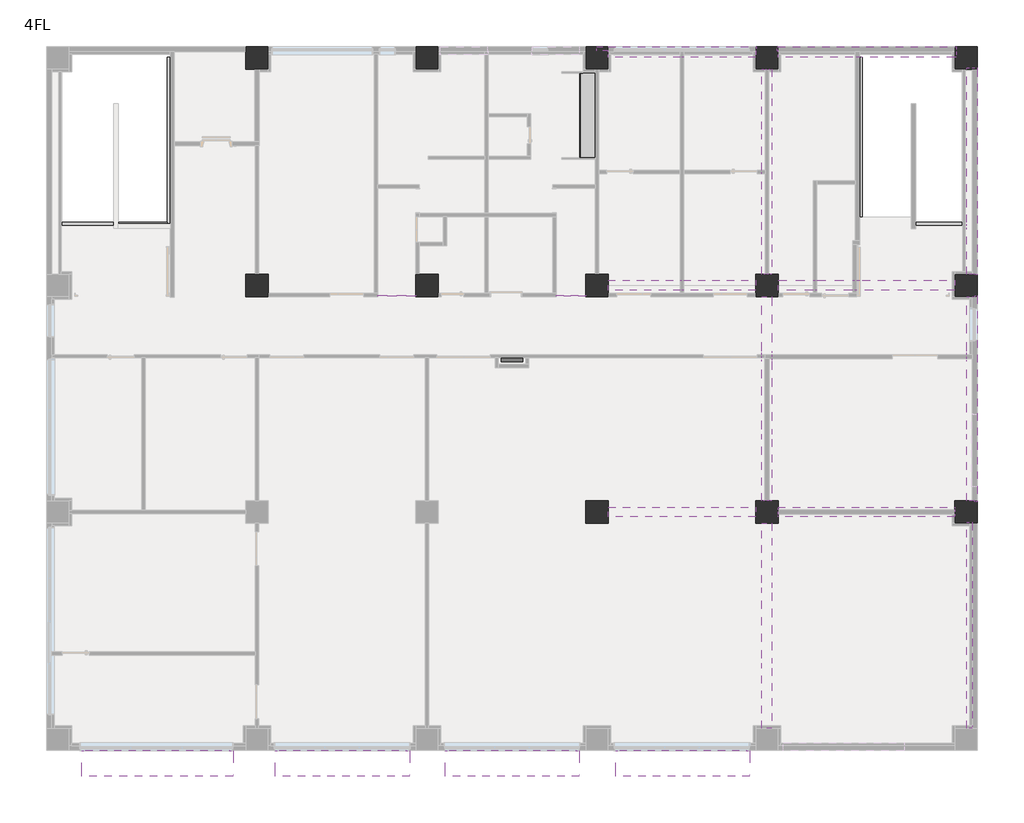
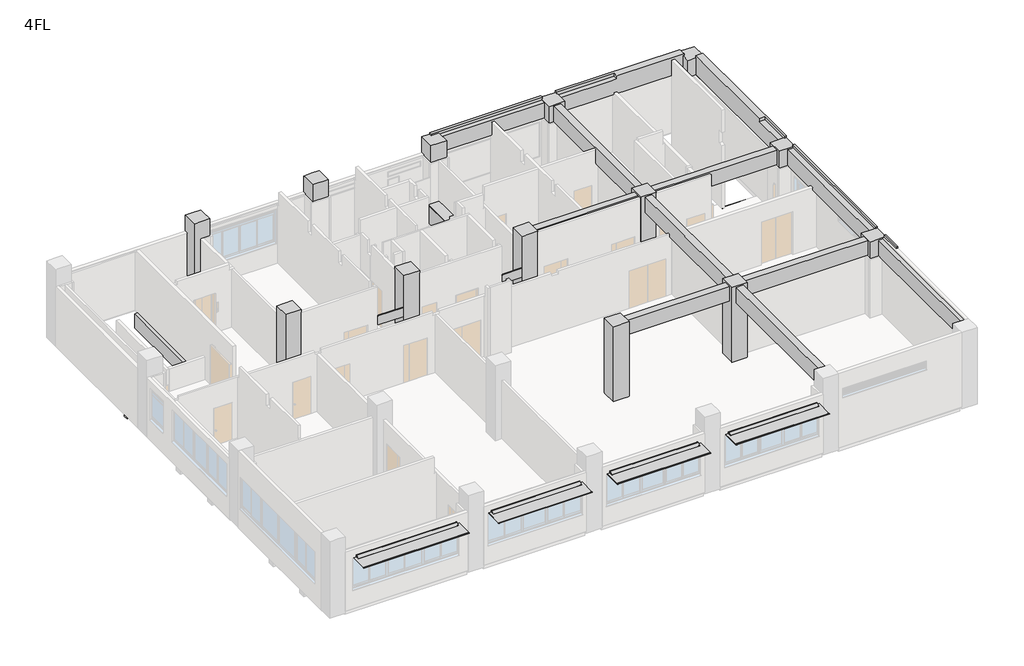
# One storey, part 5 of 5: 32 beams, 13 columns, 7 proxies, 1 flow terminal.
"""IFC4 building model written with IfcOpenShell, lengths in millimetres."""

from ifc_helpers import new_model, si_unit, frame, origin, place, context, project, spatial, polyline, outline, extrude, faceted_brep, transform, mapped, element, save
from components import generic_models_889831fe, generic_models_706210b3, specialty_equipment_ac76b24c, generic_models_62cbec98, generic_models_7d721c24, flow_terminal_46fab2b1

model = new_model("IFC4")

# Units and contexts
model_context = context("Model", 3, world=origin())
ifc_project = project(units=[si_unit("LENGTHUNIT", "METRE", prefix="MILLI")], contexts=[model_context])

# Site, building, storey
site = spatial("IfcSite", under=ifc_project)
building = spatial("IfcBuilding", under=site)
storey = spatial("IfcBuildingStorey", under=building, Name="4FL", Elevation=12300.0)

# Beams
placement = place(None, origin())
element("IfcBeam", 1, ObjectType="営_RC梁 : 2-RG2 350*850", at=placement, inside=storey, context=model_context, shape_type="SweptSolid", body=[
    extrude(outline(polyline([(19395.0, 7825.0), (19395.0, 8175.0), (24605.0, 8175.0), (24605.0, 7825.0), (19395.0, 7825.0)])), frame((0.0, 0.0, 15450.0), z_axis=(0.0, 0.0, 1.0), x_axis=(1.0, 0.0, 0.0)), (0.0, 0.0, 1.0), 790.0),
])
element("IfcBeam", 2, ObjectType="営_RC梁 : 2-RG2 350*850", at=placement, inside=storey, context=model_context, shape_type="Brep", body=[
    faceted_brep([(25395.0, 7825.0, 15450.0), (31630.0, 7825.0, 15450.0), (31630.0, 7825.0, 16240.0), (25395.0, 7825.0, 16240.0), (25395.0, 7925.0, 15450.0), (25395.0, 8075.0, 15450.0), (25395.0, 8175.0, 15450.0), (31630.0, 8175.0, 15450.0), (31630.0, 8075.0, 15450.0), (31630.0, 7925.0, 15450.0), (25395.0, 8175.0, 16240.0), (31630.0, 8175.0, 16240.0)], [[[0, 1, 2, 3]], [[0, 4, 5, 6, 7, 8, 9, 1]], [[7, 6, 10, 11]], [[6, 5, 4, 0, 3, 10]], [[1, 9, 8, 7, 11, 2]], [[3, 2, 11, 10]]]),
])
element("IfcBeam", 3, ObjectType="営_RC梁 : 2-RG2 350*850", at=placement, inside=storey, context=model_context, shape_type="Brep", body=[
    faceted_brep([(19395.0, 15825.0, 15450.0), (21940.0, 15825.0, 15450.0), (22060.0, 15825.0, 15450.0), (24605.0, 15825.0, 15450.0), (24605.0, 15825.0, 16240.0), (19395.0, 15825.0, 16240.0), (19395.0, 16175.0, 15450.0), (21940.0, 16175.0, 15450.0), (22060.0, 16175.0, 15450.0), (24605.0, 16175.0, 15450.0), (19395.0, 16175.0, 16240.0), (24605.0, 16175.0, 16240.0)], [[[0, 1, 2, 3, 4, 5]], [[0, 6, 7, 8, 9, 3, 2, 1]], [[9, 8, 7, 6, 10, 11]], [[6, 0, 5, 10]], [[3, 9, 11, 4]], [[5, 4, 11, 10]]]),
])
element("IfcBeam", 4, ObjectType="営_RC梁 : 2-RG2 350*850", at=placement, inside=storey, context=model_context, shape_type="Brep", body=[
    faceted_brep([(25395.0, 15825.0, 15450.0), (26640.0, 15825.0, 15450.0), (26760.0, 15825.0, 15450.0), (28025.0, 15825.0, 15450.0), (28175.0, 15825.0, 15450.0), (31630.0, 15825.0, 15450.0), (31630.0, 15825.0, 16240.0), (25395.0, 15825.0, 16240.0), (25395.0, 16175.0, 15450.0), (26640.0, 16175.0, 15450.0), (26760.0, 16175.0, 15450.0), (28025.0, 16175.0, 15450.0), (28175.0, 16175.0, 15450.0), (31630.0, 16175.0, 15450.0), (25395.0, 16175.0, 16240.0), (28024.0, 16175.0, 16240.0), (28374.0, 16175.0, 16240.0), (31630.0, 16175.0, 16240.0)], [[[0, 1, 2, 3, 4, 5, 6, 7]], [[0, 8, 9, 10, 11, 12, 13, 5, 4, 3, 2, 1]], [[13, 12, 11, 10, 9, 8, 14, 15, 16, 17]], [[8, 0, 7, 14]], [[5, 13, 17, 6]], [[7, 6, 17, 16, 15, 14]]]),
])
element("IfcBeam", 5, ObjectType="営_RC梁 : 2-RG1 350*850", at=placement, inside=storey, context=model_context, shape_type="Brep", body=[
    faceted_brep([(24630.0, 24420.0, 16300.0), (24630.0, 24420.0, 16390.0), (24630.0, 24290.0, 16390.0), (24630.0, 24290.0, 16300.0), (19395.0, 24050.0, 15450.0), (21940.0, 24050.0, 15450.0), (22060.0, 24050.0, 15450.0), (24605.0, 24050.0, 15450.0), (24605.0, 24050.0, 16240.0), (19395.0, 24050.0, 16240.0), (19395.0, 24250.0, 15450.0), (19395.0, 24420.0, 15450.0), (24605.0, 24420.0, 15450.0), (24605.0, 24250.0, 15450.0), (19000.0, 24420.0, 16390.0), (24605.0, 24420.0, 16300.0), (19395.0, 24420.0, 16300.0), (19000.0, 24420.0, 16300.0), (19000.0, 24290.0, 16390.0), (19395.0, 24290.0, 16240.0), (19395.0, 24290.0, 16300.0), (19000.0, 24290.0, 16300.0), (24605.0, 24290.0, 16300.0), (24605.0, 24290.0, 16240.0)], [[[0, 1, 2, 3]], [[4, 5, 6, 7, 8, 9]], [[4, 10, 11, 12, 13, 7, 6, 5]], [[14, 1, 0, 15, 12, 11, 16, 17]], [[1, 14, 18, 2]], [[11, 10, 4, 9, 19, 20, 16]], [[14, 17, 21, 18]], [[17, 16, 20, 21]], [[7, 13, 12, 15, 22, 23, 8]], [[15, 0, 3, 22]], [[23, 19, 9, 8]], [[19, 23, 22, 3, 2, 18, 21, 20]]]),
])
element("IfcBeam", 6, ObjectType="営_RC梁 : 2-RG1 350*850", at=placement, inside=storey, context=model_context, shape_type="Brep", body=[
    faceted_brep([(31680.0, 24420.0, 16390.0), (31680.0, 24250.0, 16390.0), (31680.0, 24050.0, 16390.0), (31680.0, 24050.0, 16300.0), (31680.0, 24420.0, 16300.0), (25370.0, 24420.0, 16390.0), (25370.0, 24420.0, 16300.0), (25370.0, 24290.0, 16300.0), (25370.0, 24290.0, 16390.0), (25395.0, 24050.0, 15450.0), (31630.0, 24050.0, 15450.0), (31630.0, 24050.0, 16300.0), (28374.0, 24050.0, 16390.0), (28275.0, 24050.0, 16390.0), (28275.0, 24050.0, 16240.0), (28024.0, 24050.0, 16240.0), (25395.0, 24050.0, 16240.0), (25395.0, 24250.0, 15450.0), (25395.0, 24420.0, 15450.0), (31630.0, 24420.0, 15450.0), (31630.0, 24250.0, 15450.0), (31630.0, 24420.0, 16300.0), (25395.0, 24420.0, 16300.0), (28275.0, 24290.0, 16390.0), (25395.0, 24290.0, 16240.0), (25395.0, 24290.0, 16300.0), (28275.0, 24290.0, 16240.0)], [[[0, 1, 2, 3, 4]], [[5, 6, 7, 8]], [[9, 10, 11, 3, 2, 12, 13, 14, 15, 16]], [[9, 17, 18, 19, 20, 10]], [[5, 0, 4, 21, 19, 18, 22, 6]], [[2, 1, 0, 5, 8, 23, 13, 12]], [[18, 17, 9, 16, 24, 25, 22]], [[6, 22, 25, 7]], [[21, 11, 10, 20, 19]], [[11, 21, 4, 3]], [[26, 24, 16, 15, 14]], [[26, 23, 8, 7, 25, 24]], [[23, 26, 14, 13]]]),
])
element("IfcBeam", 7, ObjectType="営_RC梁 : RG12 350*900", at=placement, inside=storey, context=model_context, shape_type="Brep", body=[
    faceted_brep([(25175.0, 370.0, 15400.0), (25175.0, 7605.0, 15400.0), (25175.0, 7605.0, 16240.0), (25175.0, 5505.0, 16240.0), (25175.0, 5155.0, 16240.0), (25175.0, 2835.0, 16240.0), (25175.0, 2485.0, 16240.0), (25175.0, 370.0, 16240.0), (24825.0, 370.0, 15400.0), (24825.0, 7605.0, 15400.0), (24825.0, 370.0, 16240.0), (24825.0, 2485.0, 16240.0), (24825.0, 2835.0, 16240.0), (24825.0, 5155.0, 16240.0), (24825.0, 5505.0, 16240.0), (24825.0, 7605.0, 16240.0)], [[[0, 1, 2, 3, 4, 5, 6, 7]], [[0, 8, 9, 1]], [[9, 8, 10, 11, 12, 13, 14, 15]], [[8, 0, 7, 10]], [[1, 9, 15, 2]], [[7, 6, 5, 4, 3, 2, 15, 14, 13, 12, 11, 10]]]),
])
element("IfcBeam", 8, ObjectType="営_RC梁 : RG12 350*900", at=placement, inside=storey, context=model_context, shape_type="Brep", body=[
    faceted_brep([(25175.0, 8395.0, 15400.0), (25175.0, 13405.0, 15400.0), (25175.0, 13555.0, 15400.0), (25175.0, 15605.0, 15400.0), (25175.0, 15605.0, 16240.0), (25175.0, 13675.0, 16240.0), (25175.0, 13325.0, 16240.0), (25175.0, 10925.0, 16240.0), (25175.0, 10575.0, 16240.0), (25175.0, 8395.0, 16240.0), (25075.0, 8395.0, 15400.0), (24925.0, 8395.0, 15400.0), (24825.0, 8395.0, 15400.0), (24825.0, 13440.0, 15400.0), (24825.0, 13560.0, 15400.0), (24825.0, 15605.0, 15400.0), (24825.0, 8395.0, 16240.0), (24825.0, 10575.0, 16240.0), (24825.0, 10925.0, 16240.0), (24825.0, 13325.0, 16240.0), (24825.0, 13675.0, 16240.0), (24825.0, 15605.0, 16240.0)], [[[0, 1, 2, 3, 4, 5, 6, 7, 8, 9]], [[0, 10, 11, 12, 13, 14, 15, 3, 2, 1]], [[15, 14, 13, 12, 16, 17, 18, 19, 20, 21]], [[12, 11, 10, 0, 9, 16]], [[3, 15, 21, 4]], [[9, 8, 7, 6, 5, 4, 21, 20, 19, 18, 17, 16]]]),
])
element("IfcBeam", 9, ObjectType="営_RC梁 : RG12 350*900", at=placement, inside=storey, context=model_context, shape_type="Brep", body=[
    faceted_brep([(25175.0, 16395.0, 15400.0), (25175.0, 23630.0, 15400.0), (25175.0, 23630.0, 16240.0), (25175.0, 16395.0, 16240.0), (25060.0, 16395.0, 15400.0), (24940.0, 16395.0, 15400.0), (24825.0, 16395.0, 15400.0), (24825.0, 19940.0, 15400.0), (24825.0, 20060.0, 15400.0), (24825.0, 23630.0, 15400.0), (24940.0, 23630.0, 15400.0), (25060.0, 23630.0, 15400.0), (24825.0, 16395.0, 16240.0), (24825.0, 18495.0, 16240.0), (24825.0, 18845.0, 16240.0), (24825.0, 21165.0, 16240.0), (24825.0, 21515.0, 16240.0), (24825.0, 23630.0, 16240.0)], [[[0, 1, 2, 3]], [[0, 4, 5, 6, 7, 8, 9, 10, 11, 1]], [[9, 8, 7, 6, 12, 13, 14, 15, 16, 17]], [[6, 5, 4, 0, 3, 12]], [[1, 11, 10, 9, 17, 2]], [[3, 2, 17, 16, 15, 14, 13, 12]]]),
])
element("IfcBeam", 10, ObjectType="営_RC梁 : 2-RG11 350*900", at=placement, inside=storey, context=model_context, shape_type="Brep", body=[
    faceted_brep([(32335.0, 7630.0, 16390.0), (32420.0, 7630.0, 16390.0), (32420.0, 7630.0, 16300.0), (32335.0, 7630.0, 16300.0), (32420.0, 6580.0, 16390.0), (32420.0, 6580.0, 16300.0), (32420.0, 7605.0, 16300.0), (32335.0, 6580.0, 16390.0), (32335.0, 6580.0, 16300.0)], [[[0, 1, 2, 3]], [[2, 1, 4, 5, 6]], [[1, 0, 7, 4]], [[3, 2, 6, 5, 8]], [[0, 3, 8, 7]], [[5, 4, 7, 8]]]),
    faceted_brep([(32050.0, 370.0, 15400.0), (32050.0, 7630.0, 15400.0), (32250.0, 7630.0, 15400.0), (32250.0, 7605.0, 15400.0), (32250.0, 460.0, 15400.0), (32250.0, 370.0, 15400.0), (32050.0, 370.0, 16240.0), (32050.0, 7630.0, 16240.0), (32250.0, 370.0, 16240.0), (32250.0, 7605.0, 16240.0), (32250.0, 7630.0, 16240.0)], [[[0, 1, 2, 3, 4, 5]], [[1, 0, 6, 7]], [[6, 0, 5, 8]], [[7, 6, 8, 9, 10]], [[2, 10, 9, 8, 5, 4, 3]], [[1, 7, 10, 2]]]),
])
element("IfcBeam", 11, ObjectType="営_RC梁 : 2-RG11 350*900", at=placement, inside=storey, context=model_context, shape_type="Brep", body=[
    faceted_brep([(32420.0, 15630.0, 16390.0), (32420.0, 15630.0, 16300.0), (32335.0, 15630.0, 16300.0), (32335.0, 15630.0, 16390.0), (32420.0, 8370.0, 16300.0), (32420.0, 8370.0, 16390.0), (32335.0, 8370.0, 16390.0), (32335.0, 8370.0, 16300.0), (32420.0, 8395.0, 16300.0), (32420.0, 8395.0, 15400.0), (32420.0, 15605.0, 15400.0), (32420.0, 15605.0, 16300.0), (32050.0, 15605.0, 15400.0), (32250.0, 15605.0, 15400.0), (32250.0, 8395.0, 15400.0), (32050.0, 8395.0, 15400.0), (32050.0, 13405.0, 15400.0), (32050.0, 13555.0, 15400.0), (32050.0, 8395.0, 16240.0), (32050.0, 10575.0, 16240.0), (32050.0, 10925.0, 16240.0), (32050.0, 13325.0, 16240.0), (32050.0, 13675.0, 16240.0), (32050.0, 15605.0, 16240.0), (32250.0, 15605.0, 16240.0), (32335.0, 15605.0, 16240.0), (32335.0, 15605.0, 16300.0), (32335.0, 8395.0, 16300.0), (32335.0, 8395.0, 16240.0), (32250.0, 8395.0, 16240.0)], [[[0, 1, 2, 3]], [[4, 5, 6, 7]], [[0, 5, 4, 8, 9, 10, 11, 1]], [[12, 13, 10, 9, 14, 15, 16, 17]], [[12, 17, 16, 15, 18, 19, 20, 21, 22, 23]], [[5, 0, 3, 6]], [[10, 13, 12, 23, 24, 25, 26, 11]], [[1, 11, 26, 2]], [[15, 14, 9, 8, 27, 28, 29, 18]], [[8, 4, 7, 27]], [[28, 25, 24, 23, 22, 21, 20, 19, 18, 29]], [[25, 28, 27, 7, 6, 3, 2, 26]]]),
])
element("IfcBeam", 12, ObjectType="営_RC梁 : 2-RG11 350*900", at=placement, inside=storey, context=model_context, shape_type="Brep", body=[
    faceted_brep([(32050.0, 23680.0, 16390.0), (32250.0, 23680.0, 16390.0), (32420.0, 23680.0, 16390.0), (32420.0, 23680.0, 16300.0), (32050.0, 23680.0, 16300.0), (32420.0, 16370.0, 16300.0), (32420.0, 16370.0, 16390.0), (32335.0, 16370.0, 16390.0), (32335.0, 16370.0, 16300.0), (32420.0, 16395.0, 16300.0), (32420.0, 16395.0, 15400.0), (32420.0, 23630.0, 15400.0), (32420.0, 23630.0, 16300.0), (32050.0, 23630.0, 15400.0), (32250.0, 23630.0, 15400.0), (32250.0, 16395.0, 15400.0), (32050.0, 16395.0, 15400.0), (32050.0, 23630.0, 16300.0), (32050.0, 16395.0, 16240.0), (32050.0, 17975.0, 16240.0), (32050.0, 18100.0, 16240.0), (32050.0, 18100.0, 16390.0), (32050.0, 18225.0, 16390.0), (32335.0, 18100.0, 16390.0), (32335.0, 16395.0, 16300.0), (32335.0, 16395.0, 16240.0), (32250.0, 16395.0, 16240.0), (32335.0, 18100.0, 16240.0), (32250.0, 18100.0, 16240.0), (32335.0, 18100.0, 16300.0)], [[[0, 1, 2, 3, 4]], [[5, 6, 7, 8]], [[2, 6, 5, 9, 10, 11, 12, 3]], [[13, 14, 11, 10, 15, 16]], [[17, 13, 16, 18, 19, 20, 21, 22, 0, 4]], [[2, 1, 0, 22, 21, 23, 7, 6]], [[17, 12, 11, 14, 13]], [[12, 17, 4, 3]], [[16, 15, 10, 9, 24, 25, 26, 18]], [[9, 5, 8, 24]], [[25, 27, 28, 20, 19, 18, 26]], [[23, 29, 27, 25, 24, 8, 7]], [[27, 29, 23, 21, 20, 28]]]),
])
element("IfcBeam", 13, ObjectType="営_RC梁 : B2 350*750", at=placement, inside=storey, context=model_context, shape_type="SweptSolid", body=[
    extrude(outline(polyline([(25225.0, 2485.0), (25225.0, 2835.0), (32050.0, 2835.0), (32050.0, 2485.0), (25225.0, 2485.0)])), frame((0.0, 0.0, 11450.0), z_axis=(0.0, 0.0, 1.0), x_axis=(1.0, 0.0, 0.0)), (0.0, 0.0, 1.0), 600.0),
])
element("IfcBeam", 14, ObjectType="営_RC梁 : B2 350*750", at=placement, inside=storey, context=model_context, shape_type="SweptSolid", body=[
    extrude(outline(polyline([(25225.0, 5155.0), (25225.0, 5505.0), (32050.0, 5505.0), (32050.0, 5155.0), (25225.0, 5155.0)])), frame((0.0, 0.0, 11450.0), z_axis=(0.0, 0.0, 1.0), x_axis=(1.0, 0.0, 0.0)), (0.0, 0.0, 1.0), 600.0),
])
element("IfcBeam", 15, ObjectType="営_RC梁 : B2 350*750", at=placement, inside=storey, context=model_context, shape_type="SweptSolid", body=[
    extrude(outline(polyline([(25225.0, 10575.0), (25225.0, 10925.0), (32050.0, 10925.0), (32050.0, 10575.0), (25225.0, 10575.0)])), frame((0.0, 0.0, 11450.0), z_axis=(0.0, 0.0, 1.0), x_axis=(1.0, 0.0, 0.0)), (0.0, 0.0, 1.0), 690.0),
])
element("IfcBeam", 16, ObjectType="営_RC梁 : B2 350*750", at=placement, inside=storey, context=model_context, shape_type="Brep", body=[
    faceted_brep([(25225.0, 13325.0, 11450.0), (32050.0, 13325.0, 11450.0), (32050.0, 13325.0, 12140.0), (25225.0, 13325.0, 12140.0), (25225.0, 13405.0, 11450.0), (25225.0, 13555.0, 11450.0), (25225.0, 13675.0, 11450.0), (32050.0, 13675.0, 11450.0), (32050.0, 13555.0, 11450.0), (32050.0, 13405.0, 11450.0), (25225.0, 13675.0, 12140.0), (32050.0, 13675.0, 12140.0)], [[[0, 1, 2, 3]], [[0, 4, 5, 6, 7, 8, 9, 1]], [[7, 6, 10, 11]], [[6, 5, 4, 0, 3, 10]], [[1, 9, 8, 7, 11, 2]], [[3, 2, 11, 10]]]),
])
element("IfcBeam", 17, ObjectType="営_RC梁 : B4 350*750", at=placement, inside=storey, context=model_context, shape_type="Brep", body=[
    faceted_brep([(28374.0, 16175.0, 11450.0), (28374.0, 24050.0, 11450.0), (28374.0, 24050.0, 12200.0), (28374.0, 18400.0, 12200.0), (28374.0, 18400.0, 12140.0), (28374.0, 18225.0, 12140.0), (28374.0, 17975.0, 12140.0), (28374.0, 16175.0, 12140.0), (28175.0, 16175.0, 11450.0), (28025.0, 16175.0, 11450.0), (28024.0, 16175.0, 11450.0), (28024.0, 19575.0, 11450.0), (28024.0, 19695.0, 11450.0), (28024.0, 24050.0, 11450.0), (28024.0, 16175.0, 12050.0), (28024.0, 19575.0, 12050.0), (28024.0, 19695.0, 12050.0), (28024.0, 24050.0, 12050.0), (28200.0, 24050.0, 12200.0), (28200.0, 18400.0, 12200.0), (28200.0, 16175.0, 12140.0), (28200.0, 16175.0, 12050.0), (28200.0, 24050.0, 12050.0), (28200.0, 18400.0, 12140.0)], [[[0, 1, 2, 3, 4, 5, 6, 7]], [[0, 8, 9, 10, 11, 12, 13, 1]], [[13, 12, 11, 10, 14, 15, 16, 17]], [[2, 18, 19, 3]], [[10, 9, 8, 0, 7, 20, 21, 14]], [[2, 1, 13, 17, 22, 18]], [[21, 22, 17, 16, 15, 14]], [[22, 21, 20, 23, 19, 18]], [[4, 23, 20, 7, 6, 5]], [[23, 4, 3, 19]]]),
])
element("IfcBeam", 18, ObjectType="営_RC梁 : B3 250*600", at=placement, inside=storey, context=model_context, shape_type="Brep", body=[
    faceted_brep([(28374.0, 17975.0, 11600.0), (32050.0, 17975.0, 11600.0), (32050.0, 17975.0, 12140.0), (28374.0, 17975.0, 12140.0), (28374.0, 18225.0, 11600.0), (30105.0, 18225.0, 11600.0), (30255.0, 18225.0, 11600.0), (32050.0, 18225.0, 11600.0), (28374.0, 18225.0, 12140.0), (30105.0, 18225.0, 12140.0), (30105.0, 18225.0, 12200.0), (30255.0, 18225.0, 12200.0), (31900.0, 18225.0, 12200.0), (31900.0, 18225.0, 12140.0), (32050.0, 18225.0, 12140.0), (30105.0, 18005.0, 12200.0), (30255.0, 18005.0, 12200.0), (30255.0, 18100.0, 12200.0), (31900.0, 18100.0, 12200.0), (30255.0, 18005.0, 12140.0), (30105.0, 18005.0, 12140.0), (31900.0, 18100.0, 12140.0), (30255.0, 18100.0, 12140.0)], [[[0, 1, 2, 3]], [[0, 4, 5, 6, 7, 1]], [[7, 6, 5, 4, 8, 9, 10, 11, 12, 13, 14]], [[12, 11, 10, 15, 16, 17, 18]], [[4, 0, 3, 8]], [[1, 7, 14, 2]], [[19, 20, 9, 8, 3, 2, 14, 13, 21, 22]], [[9, 20, 15, 10]], [[20, 19, 16, 15]], [[19, 22, 17, 16]], [[22, 21, 18, 17]], [[21, 13, 12, 18]]]),
])
element("IfcBeam", 19, ObjectType="営_RC梁 : B2 350*750", at=placement, inside=storey, context=model_context, shape_type="SweptSolid", body=[
    extrude(outline(polyline([(19225.0, 5155.0), (19225.0, 5505.0), (24775.0, 5505.0), (24775.0, 5155.0), (19225.0, 5155.0)])), frame((0.0, 0.0, 11450.0), z_axis=(0.0, 0.0, 1.0), x_axis=(1.0, 0.0, 0.0)), (0.0, 0.0, 1.0), 600.0),
])
element("IfcBeam", 20, ObjectType="営_RC梁 : B2 350*750", at=placement, inside=storey, context=model_context, shape_type="SweptSolid", body=[
    extrude(outline(polyline([(19225.0, 10575.0), (19225.0, 10925.0), (24775.0, 10925.0), (24775.0, 10575.0), (19225.0, 10575.0)])), frame((0.0, 0.0, 11450.0), z_axis=(0.0, 0.0, 1.0), x_axis=(1.0, 0.0, 0.0)), (0.0, 0.0, 1.0), 600.0),
])
element("IfcBeam", 21, ObjectType="営_RC梁 : B2 350*750", at=placement, inside=storey, context=model_context, shape_type="SweptSolid", body=[
    extrude(outline(polyline([(13675.0, 11450.0), (13325.0, 11450.0), (13325.0, 12050.0), (13500.0, 12050.0), (13500.0, 12140.0), (13675.0, 12140.0), (13675.0, 11450.0)])), frame((19225.0, 0.0, 0.0), z_axis=(1.0, 0.0, 0.0), x_axis=(0.0, 1.0, 0.0)), (0.0, 0.0, 1.0), 5550.0),
])
element("IfcBeam", 22, ObjectType="営_RC梁 : B2 350*750", at=placement, inside=storey, context=model_context, shape_type="SweptSolid", body=[
    extrude(outline(polyline([(18775.0, 10925.0), (18775.0, 10575.0), (13225.0, 10575.0), (13225.0, 10925.0), (18775.0, 10925.0)])), frame((0.0, 0.0, 11450.0), z_axis=(0.0, 0.0, 1.0), x_axis=(1.0, 0.0, 0.0)), (0.0, 0.0, 1.0), 600.0),
])
element("IfcBeam", 23, ObjectType="営_RC梁 : B2 350*750", at=placement, inside=storey, context=model_context, shape_type="Brep", body=[
    faceted_brep([(13225.0, 13325.0, 11450.0), (13870.0, 13325.0, 11450.0), (13990.0, 13325.0, 11450.0), (14950.0, 13325.0, 11450.0), (15070.0, 13325.0, 11450.0), (18775.0, 13325.0, 11450.0), (18775.0, 13325.0, 12050.0), (15070.0, 13325.0, 12050.0), (14950.0, 13325.0, 12050.0), (13990.0, 13325.0, 12050.0), (13870.0, 13325.0, 12050.0), (13225.0, 13325.0, 12050.0), (18775.0, 13675.0, 11450.0), (13225.0, 13675.0, 11450.0), (13225.0, 13675.0, 12140.0), (18775.0, 13675.0, 12140.0), (18775.0, 13500.0, 12140.0), (18775.0, 13500.0, 12050.0), (13225.0, 13500.0, 12050.0), (13225.0, 13500.0, 12140.0)], [[[0, 1, 2, 3, 4, 5, 6, 7, 8, 9, 10, 11]], [[12, 5, 4, 3, 2, 1, 0, 13]], [[12, 13, 14, 15]], [[5, 12, 15, 16, 17, 6]], [[13, 0, 11, 18, 19, 14]], [[17, 18, 11, 10, 9, 8, 7, 6]], [[18, 17, 16, 19]], [[15, 14, 19, 16]]]),
])
element("IfcBeam", 24, ObjectType="営_RC梁 : B1 350*750", at=placement, inside=storey, context=model_context, shape_type="SweptSolid", body=[
    extrude(outline(polyline([(19225.0, 18495.0), (19225.0, 18845.0), (24775.0, 18845.0), (24775.0, 18495.0), (19225.0, 18495.0)])), frame((0.0, 0.0, 11450.0), z_axis=(0.0, 0.0, 1.0), x_axis=(1.0, 0.0, 0.0)), (0.0, 0.0, 1.0), 690.0),
])
element("IfcBeam", 25, ObjectType="営_RC梁 : B1 350*750", at=placement, inside=storey, context=model_context, shape_type="SweptSolid", body=[
    extrude(outline(polyline([(19225.0, 21165.0), (19225.0, 21515.0), (24775.0, 21515.0), (24775.0, 21165.0), (19225.0, 21165.0)])), frame((0.0, 0.0, 11450.0), z_axis=(0.0, 0.0, 1.0), x_axis=(1.0, 0.0, 0.0)), (0.0, 0.0, 1.0), 690.0),
])
element("IfcBeam", 26, ObjectType="営_RC梁 : B1 350*750", at=placement, inside=storey, context=model_context, shape_type="Brep", body=[
    faceted_brep([(13225.0, 18495.0, 11450.0), (17560.0, 18495.0, 11450.0), (18775.0, 18495.0, 11450.0), (18775.0, 18495.0, 12140.0), (13225.0, 18495.0, 12140.0), (13225.0, 18495.0, 12050.0), (13225.0, 18550.0, 11450.0), (13225.0, 18845.0, 11450.0), (15040.0, 18845.0, 11450.0), (15160.0, 18845.0, 11450.0), (17440.0, 18845.0, 11450.0), (17560.0, 18845.0, 11450.0), (18775.0, 18845.0, 11450.0), (13225.0, 18845.0, 12140.0), (18775.0, 18845.0, 12140.0)], [[[0, 1, 2, 3, 4, 5]], [[0, 6, 7, 8, 9, 10, 11, 12, 2, 1]], [[12, 11, 10, 9, 8, 7, 13, 14]], [[7, 6, 0, 5, 4, 13]], [[2, 12, 14, 3]], [[4, 3, 14, 13]]]),
])
element("IfcBeam", 27, ObjectType="営_RC梁 : B1 350*750", at=placement, inside=storey, context=model_context, shape_type="Brep", body=[
    faceted_brep([(13225.0, 21165.0, 11450.0), (15040.0, 21165.0, 11450.0), (15160.0, 21165.0, 11450.0), (16540.0, 21165.0, 11450.0), (16660.0, 21165.0, 11450.0), (18775.0, 21165.0, 11450.0), (18775.0, 21165.0, 12140.0), (13225.0, 21165.0, 12140.0), (13225.0, 21515.0, 11450.0), (15040.0, 21515.0, 11450.0), (15160.0, 21515.0, 11450.0), (16540.0, 21515.0, 11450.0), (16660.0, 21515.0, 11450.0), (18775.0, 21515.0, 11450.0), (13225.0, 21515.0, 12140.0), (18775.0, 21515.0, 12140.0)], [[[0, 1, 2, 3, 4, 5, 6, 7]], [[0, 8, 9, 10, 11, 12, 13, 5, 4, 3, 2, 1]], [[13, 12, 11, 10, 9, 8, 14, 15]], [[8, 0, 7, 14]], [[5, 13, 15, 6]], [[7, 6, 15, 14]]]),
])
element("IfcBeam", 28, ObjectType="営_RC梁 : B1 350*750", at=placement, inside=storey, context=model_context, shape_type="Brep", body=[
    faceted_brep([(7225.0, 18495.0, 11450.0), (11140.0, 18495.0, 11450.0), (11260.0, 18495.0, 11450.0), (12580.0, 18495.0, 11450.0), (12700.0, 18495.0, 11450.0), (12775.0, 18495.0, 11450.0), (12775.0, 18495.0, 12050.0), (12775.0, 18495.0, 12140.0), (7225.0, 18495.0, 12140.0), (7225.0, 18845.0, 11450.0), (11140.0, 18845.0, 11450.0), (11260.0, 18845.0, 11450.0), (12580.0, 18845.0, 11450.0), (12700.0, 18845.0, 11450.0), (12775.0, 18845.0, 11450.0), (12775.0, 18550.0, 11450.0), (7225.0, 18845.0, 12140.0), (12775.0, 18845.0, 12140.0)], [[[0, 1, 2, 3, 4, 5, 6, 7, 8]], [[0, 9, 10, 11, 12, 13, 14, 15, 5, 4, 3, 2, 1]], [[14, 13, 12, 11, 10, 9, 16, 17]], [[9, 0, 8, 16]], [[5, 15, 14, 17, 7, 6]], [[8, 7, 17, 16]]]),
])
element("IfcBeam", 29, ObjectType="営_RC梁 : B1 350*750", at=placement, inside=storey, context=model_context, shape_type="Brep", body=[
    faceted_brep([(7225.0, 21165.0, 11450.0), (11140.0, 21165.0, 11450.0), (11260.0, 21165.0, 11450.0), (12775.0, 21165.0, 11450.0), (12775.0, 21165.0, 12140.0), (7225.0, 21165.0, 12140.0), (7225.0, 21515.0, 11450.0), (11140.0, 21515.0, 11450.0), (11260.0, 21515.0, 11450.0), (12775.0, 21515.0, 11450.0), (7225.0, 21515.0, 12140.0), (12775.0, 21515.0, 12140.0)], [[[0, 1, 2, 3, 4, 5]], [[0, 6, 7, 8, 9, 3, 2, 1]], [[9, 8, 7, 6, 10, 11]], [[6, 0, 5, 10]], [[3, 9, 11, 4]], [[5, 4, 11, 10]]]),
])
element("IfcBeam", 30, ObjectType="営_RC梁 : B3 250*600", at=placement, inside=storey, context=model_context, shape_type="Brep", body=[
    faceted_brep([(4175.0, 20825.0, 11600.0), (6775.0, 20825.0, 11600.0), (6775.0, 20825.0, 12140.0), (4175.0, 20825.0, 12140.0), (6775.0, 21075.0, 11600.0), (6775.0, 20925.0, 11600.0), (4175.0, 20925.0, 11600.0), (4175.0, 21075.0, 11600.0), (4175.0, 21075.0, 12140.0), (6775.0, 21075.0, 12140.0)], [[[0, 1, 2, 3]], [[4, 5, 1, 0, 6, 7]], [[4, 7, 8, 9]], [[1, 5, 4, 9, 2]], [[7, 6, 0, 3, 8]], [[3, 2, 9, 8]]]),
])
element("IfcBeam", 31, ObjectType="営_RC梁 : B4 350*750", at=placement, inside=storey, context=model_context, shape_type="Brep", body=[
    faceted_brep([(4175.0, 16175.0, 11450.0), (4175.0, 20925.0, 11450.0), (4175.0, 21075.0, 11450.0), (4175.0, 24050.0, 11450.0), (4175.0, 24050.0, 12140.0), (4175.0, 21075.0, 12140.0), (4175.0, 20825.0, 12140.0), (4175.0, 16175.0, 12140.0), (3825.0, 16175.0, 11450.0), (3825.0, 24050.0, 11450.0), (3925.0, 24050.0, 11450.0), (4075.0, 24050.0, 11450.0), (3825.0, 16175.0, 12140.0), (3825.0, 17975.0, 12140.0), (3825.0, 18100.0, 12140.0), (3825.0, 18100.0, 12200.0), (3825.0, 18225.0, 12200.0), (3825.0, 24050.0, 12200.0), (4000.0, 24050.0, 12200.0), (4000.0, 18100.0, 12200.0), (4000.0, 24050.0, 12140.0), (4000.0, 18100.0, 12140.0)], [[[0, 1, 2, 3, 4, 5, 6, 7]], [[0, 8, 9, 10, 11, 3, 2, 1]], [[9, 8, 12, 13, 14, 15, 16, 17]], [[18, 17, 16, 15, 19]], [[8, 0, 7, 12]], [[3, 11, 10, 9, 17, 18, 20, 4]], [[20, 21, 14, 13, 12, 7, 6, 5, 4]], [[14, 21, 19, 15]], [[21, 20, 18, 19]]]),
])
element("IfcBeam", 32, ObjectType="営_RC梁 : B3 250*600", at=placement, inside=storey, context=model_context, shape_type="Brep", body=[
    faceted_brep([(-50.0, 17975.0, 11600.0), (1945.0, 17975.0, 11600.0), (2095.0, 17975.0, 11600.0), (3825.0, 17975.0, 11600.0), (3825.0, 17975.0, 12140.0), (-50.0, 17975.0, 12140.0), (3825.0, 18225.0, 11600.0), (-50.0, 18225.0, 11600.0), (1945.0, 18225.0, 11600.0), (2095.0, 18225.0, 11600.0), (3825.0, 18225.0, 12200.0), (-50.0, 18225.0, 12140.0), (100.0, 18225.0, 12140.0), (100.0, 18225.0, 12200.0), (1945.0, 18225.0, 12200.0), (2095.0, 18225.0, 12200.0), (3825.0, 18100.0, 12200.0), (100.0, 18100.0, 12200.0), (3825.0, 18100.0, 12140.0), (100.0, 18100.0, 12140.0)], [[[0, 1, 2, 3, 4, 5]], [[6, 3, 2, 1, 0, 7, 8, 9]], [[10, 6, 9, 8, 7, 11, 12, 13, 14, 15]], [[16, 10, 15, 14, 13, 17]], [[3, 6, 10, 16, 18, 4]], [[7, 0, 5, 11]], [[18, 19, 12, 11, 5, 4]], [[12, 19, 17, 13]], [[19, 18, 16, 17]]]),
])

# Proxies
generic_models_shape = generic_models_889831fe(model_context)
element("IfcBuildingElementProxy", 33, Name="営_付庇_窓 : 付庇", ObjectType="営_付庇_窓 : 付庇", at=placement, inside=storey, context=model_context, shape_type="MappedRepresentation", body=[
    mapped(generic_models_shape, transform((3476.2951348, -420.0, 12300.0), x_axis=(1.0, 0.0, 0.0), y_axis=(0.0, 1.0, 0.0), z_axis=(0.0, 0.0, 1.0))),
])
generic_models_2_shape = generic_models_706210b3(model_context)
element("IfcBuildingElementProxy", 34, Name="営_付庇_窓 : 付庇", ObjectType="営_付庇_窓 : 付庇", at=placement, inside=storey, context=model_context, shape_type="MappedRepresentation", body=[
    mapped(generic_models_2_shape, transform((10011.2951348, -420.0, 12300.0), x_axis=(1.0, 0.0, 0.0), y_axis=(0.0, 1.0, 0.0), z_axis=(0.0, 0.0, 1.0))),
])
element("IfcBuildingElementProxy", 35, Name="営_付庇_窓 : 付庇", ObjectType="営_付庇_窓 : 付庇", at=placement, inside=storey, context=model_context, shape_type="MappedRepresentation", body=[
    mapped(generic_models_2_shape, transform((16011.2951348, -420.0, 12300.0), x_axis=(1.0, 0.0, 0.0), y_axis=(0.0, 1.0, 0.0), z_axis=(0.0, 0.0, 1.0))),
])
element("IfcBuildingElementProxy", 36, Name="営_付庇_窓 : 付庇", ObjectType="営_付庇_窓 : 付庇", at=placement, inside=storey, context=model_context, shape_type="MappedRepresentation", body=[
    mapped(generic_models_2_shape, transform((22031.2951348, -420.0, 12300.0), x_axis=(1.0, 0.0, 0.0), y_axis=(0.0, 1.0, 0.0), z_axis=(0.0, 0.0, 1.0))),
])
specialty_equipment_shape = specialty_equipment_ac76b24c(model_context)
element("IfcBuildingElementProxy", 37, Name="営_屋内消火栓 : 屋内消火栓", ObjectType="営_屋内消火栓 : 屋内消火栓", at=placement, inside=storey, context=model_context, shape_type="MappedRepresentation", body=[
    mapped(specialty_equipment_shape, transform((16000.0, 13550.0, 12300.0), x_axis=(1.0, 0.0, 0.0), y_axis=(0.0, 1.0, 0.0), z_axis=(0.0, 0.0, 1.0))),
])
generic_models_3_shape = generic_models_62cbec98(model_context)
element("IfcBuildingElementProxy", 38, Name="防煙垂壁 : 可動防煙垂壁", ObjectType="防煙垂壁 : 可動防煙垂壁", at=placement, inside=storey, context=model_context, shape_type="MappedRepresentation", body=[
    mapped(generic_models_3_shape, transform((12605.0, 15630.0, 12300.0), x_axis=(-1.0, 0.0, 0.0), y_axis=(0.0, -1.0, 0.0), z_axis=(0.0, 0.0, 1.0))),
])
generic_models_4_shape = generic_models_7d721c24(model_context)
element("IfcBuildingElementProxy", 39, Name="防煙垂壁 : 可動防煙垂壁", ObjectType="防煙垂壁 : 可動防煙垂壁", at=placement, inside=storey, context=model_context, shape_type="MappedRepresentation", body=[
    mapped(generic_models_4_shape, transform((18605.0, 15630.0, 12300.0), x_axis=(-1.0, 0.0, 0.0), y_axis=(0.0, -1.0, 0.0), z_axis=(0.0, 0.0, 1.0))),
])

# Columns
element("IfcColumn", 40, ObjectType="営_RC柱_角 : 750*750", at=placement, inside=storey, context=model_context, shape_type="Brep", body=[
    faceted_brep([(19395.0, 8395.0, 12200.0), (19395.0, 7605.0, 12200.0), (18605.0, 7605.0, 12200.0), (18605.0, 8395.0, 12200.0), (19395.0, 8395.0, 16300.0), (19395.0, 7605.0, 16300.0), (19395.0, 7605.0, 16240.0), (19395.0, 7605.0, 12290.0), (19395.0, 7605.0, 12280.0), (19395.0, 8395.0, 12280.0), (19395.0, 8395.0, 12290.0), (19395.0, 8395.0, 16240.0), (18605.0, 7605.0, 16300.0), (18605.0, 7605.0, 16240.0), (18605.0, 7605.0, 12290.0), (18605.0, 7605.0, 12280.0), (18605.0, 8395.0, 16300.0), (18605.0, 8395.0, 16240.0), (18605.0, 8395.0, 12290.0), (18605.0, 8395.0, 12280.0)], [[[0, 1, 2, 3]], [[4, 5, 6, 7, 8, 1, 0, 9, 10, 11]], [[5, 12, 13, 14, 15, 2, 1, 8, 7, 6]], [[12, 16, 17, 18, 19, 3, 2, 15, 14, 13]], [[16, 4, 11, 10, 9, 0, 3, 19, 18, 17]], [[4, 16, 12, 5]]]),
])
element("IfcColumn", 41, ObjectType="営_RC柱_角 : 750*750", at=placement, inside=storey, context=model_context, shape_type="Brep", body=[
    faceted_brep([(25395.0, 8395.0, 12200.0), (25395.0, 7925.0, 12200.0), (25395.0, 7605.0, 12200.0), (24605.0, 7605.0, 12200.0), (24605.0, 8395.0, 12200.0), (25000.0, 8395.0, 12200.0), (25395.0, 8395.0, 16300.0), (25395.0, 7605.0, 16300.0), (25395.0, 7605.0, 16240.0), (25395.0, 7605.0, 12290.0), (25395.0, 7605.0, 12280.0), (25395.0, 8395.0, 12290.0), (25395.0, 8395.0, 16240.0), (24605.0, 7605.0, 16300.0), (24605.0, 7605.0, 16240.0), (24605.0, 7605.0, 12290.0), (24605.0, 7605.0, 12280.0), (24605.0, 8395.0, 16300.0), (24605.0, 8395.0, 16240.0), (24605.0, 8395.0, 12290.0), (24605.0, 8395.0, 12280.0)], [[[0, 1, 2, 3, 4, 5]], [[6, 7, 8, 9, 10, 2, 1, 0, 11, 12]], [[7, 13, 14, 15, 16, 3, 2, 10, 9, 8]], [[13, 17, 18, 19, 20, 4, 3, 16, 15, 14]], [[17, 6, 12, 11, 0, 5, 4, 20, 19, 18]], [[6, 17, 13, 7]]]),
])
element("IfcColumn", 42, ObjectType="営_RC柱_角 : 750*750", at=placement, inside=storey, context=model_context, shape_type="Brep", body=[
    faceted_brep([(32420.0, 8395.0, 12200.0), (32420.0, 7605.0, 12200.0), (32250.0, 7605.0, 12200.0), (31630.0, 7605.0, 12200.0), (31630.0, 7925.0, 12200.0), (31630.0, 8395.0, 12200.0), (32250.0, 8395.0, 12200.0), (32325.0, 8395.0, 12200.0), (32420.0, 8395.0, 16300.0), (32420.0, 8370.0, 16300.0), (32420.0, 7630.0, 16300.0), (32420.0, 7605.0, 16300.0), (32420.0, 8395.0, 15400.0), (32250.0, 7605.0, 16300.0), (31630.0, 7605.0, 16300.0), (31630.0, 7605.0, 16240.0), (31630.0, 7605.0, 12290.0), (31630.0, 7605.0, 12280.0), (31630.0, 8395.0, 16300.0), (31630.0, 8395.0, 16240.0), (31630.0, 8395.0, 12290.0), (32250.0, 8395.0, 16300.0), (32335.0, 8395.0, 16300.0)], [[[0, 1, 2, 3, 4, 5, 6, 7]], [[8, 9, 10, 11, 1, 0, 12]], [[11, 13, 14, 15, 16, 17, 3, 2, 1]], [[14, 18, 19, 20, 5, 4, 3, 17, 16, 15]], [[18, 21, 22, 8, 12, 0, 7, 6, 5, 20, 19]], [[8, 22, 21, 18, 14, 13, 11, 10, 9]]]),
])
element("IfcColumn", 43, ObjectType="営_RC柱_角 : 750*750", at=placement, inside=storey, context=model_context, shape_type="Brep", body=[
    faceted_brep([(7395.0, 16395.0, 12200.0), (7395.0, 15605.0, 12200.0), (6605.0, 15605.0, 12200.0), (6605.0, 16395.0, 12200.0), (7395.0, 16395.0, 16300.0), (7395.0, 15605.0, 16300.0), (7395.0, 15605.0, 16240.0), (7395.0, 15605.0, 16150.0), (7395.0, 15605.0, 12300.0), (7395.0, 15605.0, 12290.0), (7395.0, 16395.0, 12280.0), (7395.0, 16395.0, 12290.0), (7395.0, 16395.0, 16240.0), (6605.0, 15605.0, 16300.0), (6605.0, 15605.0, 16240.0), (6605.0, 15605.0, 12290.0), (6605.0, 16395.0, 16300.0), (6605.0, 16395.0, 16240.0), (6605.0, 16395.0, 12290.0)], [[[0, 1, 2, 3]], [[4, 5, 6, 7, 8, 9, 1, 0, 10, 11, 12]], [[5, 13, 14, 15, 2, 1, 9, 8, 7, 6]], [[13, 16, 17, 18, 3, 2, 15, 14]], [[16, 4, 12, 11, 10, 0, 3, 18, 17]], [[4, 16, 13, 5]]]),
])
element("IfcColumn", 44, ObjectType="営_RC柱_角 : 750*750", at=placement, inside=storey, context=model_context, shape_type="Brep", body=[
    faceted_brep([(13395.0, 16395.0, 12200.0), (13395.0, 15605.0, 12200.0), (12605.0, 15605.0, 12200.0), (12605.0, 16395.0, 12200.0), (13395.0, 16395.0, 16300.0), (13395.0, 15605.0, 16300.0), (13395.0, 15605.0, 16240.0), (13395.0, 15605.0, 16150.0), (13395.0, 15605.0, 12300.0), (13395.0, 15605.0, 12290.0), (13395.0, 16395.0, 12290.0), (13395.0, 16395.0, 16240.0), (12605.0, 15605.0, 16300.0), (12605.0, 15605.0, 16240.0), (12605.0, 15605.0, 12290.0), (12605.0, 16395.0, 16300.0), (12605.0, 16395.0, 16240.0), (12605.0, 16395.0, 16150.0), (12605.0, 16395.0, 12300.0), (12605.0, 16395.0, 12290.0)], [[[0, 1, 2, 3]], [[4, 5, 6, 7, 8, 9, 1, 0, 10, 11]], [[5, 12, 13, 14, 2, 1, 9, 8, 7, 6]], [[12, 15, 16, 17, 18, 19, 3, 2, 14, 13]], [[15, 4, 11, 10, 0, 3, 19, 18, 17, 16]], [[4, 15, 12, 5]]]),
])
element("IfcColumn", 45, ObjectType="営_RC柱_角 : 750*750", at=placement, inside=storey, context=model_context, shape_type="Brep", body=[
    faceted_brep([(19395.0, 16395.0, 12200.0), (19395.0, 15605.0, 12200.0), (18605.0, 15605.0, 12200.0), (18605.0, 16395.0, 12200.0), (19395.0, 16395.0, 16300.0), (19395.0, 15605.0, 16300.0), (19395.0, 15605.0, 16250.0), (19395.0, 15605.0, 16240.0), (19395.0, 15605.0, 12300.0), (19395.0, 15605.0, 12290.0), (19395.0, 16395.0, 12280.0), (19395.0, 16395.0, 12290.0), (19395.0, 16395.0, 16240.0), (18605.0, 15605.0, 16300.0), (18605.0, 15605.0, 16240.0), (18605.0, 15605.0, 12290.0), (18605.0, 16395.0, 16300.0), (18605.0, 16395.0, 16240.0), (18605.0, 16395.0, 12290.0)], [[[0, 1, 2, 3]], [[4, 5, 6, 7, 8, 9, 1, 0, 10, 11, 12]], [[5, 13, 14, 15, 2, 1, 9, 8, 7, 6]], [[13, 16, 17, 18, 3, 2, 15, 14]], [[16, 4, 12, 11, 10, 0, 3, 18, 17]], [[4, 16, 13, 5]]]),
])
element("IfcColumn", 46, ObjectType="営_RC柱_角 : 750*750", at=placement, inside=storey, context=model_context, shape_type="Brep", body=[
    faceted_brep([(25395.0, 16395.0, 12200.0), (25395.0, 15665.0, 12200.0), (25395.0, 15605.0, 12200.0), (24605.0, 15605.0, 12200.0), (24605.0, 16395.0, 12200.0), (25000.0, 16395.0, 12200.0), (25395.0, 16395.0, 16300.0), (25395.0, 15605.0, 16300.0), (25395.0, 15605.0, 16250.0), (25395.0, 15605.0, 16240.0), (25395.0, 15605.0, 12300.0), (25395.0, 15605.0, 12290.0), (25395.0, 16395.0, 12280.0), (25395.0, 16395.0, 12290.0), (25395.0, 16395.0, 16240.0), (24605.0, 15605.0, 16300.0), (24605.0, 15605.0, 16250.0), (24605.0, 15605.0, 16240.0), (24605.0, 15605.0, 12300.0), (24605.0, 15605.0, 12290.0), (24605.0, 16395.0, 16300.0), (24605.0, 16395.0, 16240.0), (24605.0, 16395.0, 12290.0), (24605.0, 16395.0, 12280.0)], [[[0, 1, 2, 3, 4, 5]], [[6, 7, 8, 9, 10, 11, 2, 1, 0, 12, 13, 14]], [[7, 15, 16, 17, 18, 19, 3, 2, 11, 10, 9, 8]], [[15, 20, 21, 22, 23, 4, 3, 19, 18, 17, 16]], [[20, 6, 14, 13, 12, 0, 5, 4, 23, 22, 21]], [[6, 20, 15, 7]]]),
])
element("IfcColumn", 47, ObjectType="営_RC柱_角 : 750*750", at=placement, inside=storey, context=model_context, shape_type="Brep", body=[
    faceted_brep([(32420.0, 16395.0, 12200.0), (32420.0, 15605.0, 12200.0), (32325.0, 15605.0, 12200.0), (32250.0, 15605.0, 12200.0), (31630.0, 15605.0, 12200.0), (31630.0, 16395.0, 12200.0), (32250.0, 16395.0, 12200.0), (32325.0, 16395.0, 12200.0), (32420.0, 16395.0, 16300.0), (32420.0, 16370.0, 16300.0), (32420.0, 15630.0, 16300.0), (32420.0, 15605.0, 16300.0), (32420.0, 15605.0, 15400.0), (32420.0, 16395.0, 15400.0), (32335.0, 15605.0, 16300.0), (32250.0, 15605.0, 16300.0), (31630.0, 15605.0, 16300.0), (31630.0, 15605.0, 16240.0), (31630.0, 15605.0, 12290.0), (31630.0, 16395.0, 16300.0), (31630.0, 16395.0, 16240.0), (31630.0, 16395.0, 12290.0), (32250.0, 16395.0, 16300.0), (32335.0, 16395.0, 16300.0)], [[[0, 1, 2, 3, 4, 5, 6, 7]], [[8, 9, 10, 11, 12, 1, 0, 13]], [[11, 14, 15, 16, 17, 18, 4, 3, 2, 1, 12]], [[16, 19, 20, 21, 5, 4, 18, 17]], [[19, 22, 23, 8, 13, 0, 7, 6, 5, 21, 20]], [[8, 23, 22, 19, 16, 15, 14, 11, 10, 9]]]),
])
element("IfcColumn", 48, ObjectType="営_RC柱_角 : 750*750", at=placement, inside=storey, context=model_context, shape_type="Brep", body=[
    faceted_brep([(7395.0, 24420.0, 12200.0), (7395.0, 24335.0, 12200.0), (7395.0, 24250.0, 12200.0), (7395.0, 23630.0, 12200.0), (6605.0, 23630.0, 12200.0), (6605.0, 24250.0, 12200.0), (6605.0, 24335.0, 12200.0), (6605.0, 24420.0, 12200.0), (7395.0, 24420.0, 16300.0), (7395.0, 24290.0, 16300.0), (7395.0, 23630.0, 16300.0), (7395.0, 23630.0, 16240.0), (7395.0, 23630.0, 12290.0), (7395.0, 23630.0, 12280.0), (7395.0, 24420.0, 15450.0), (6605.0, 23630.0, 16300.0), (6605.0, 23630.0, 16240.0), (6605.0, 23630.0, 12290.0), (6605.0, 24290.0, 16300.0), (6605.0, 24420.0, 16300.0), (6605.0, 24420.0, 15450.0), (7000.0, 24420.0, 16300.0)], [[[0, 1, 2, 3, 4, 5, 6, 7]], [[8, 9, 10, 11, 12, 13, 3, 2, 1, 0, 14]], [[10, 15, 16, 17, 4, 3, 13, 12, 11]], [[15, 18, 19, 20, 7, 6, 5, 4, 17, 16]], [[19, 21, 8, 14, 0, 7, 20]], [[8, 21, 19, 18, 15, 10, 9]]]),
])
element("IfcColumn", 49, ObjectType="営_RC柱_角 : 750*750", at=placement, inside=storey, context=model_context, shape_type="Brep", body=[
    faceted_brep([(13395.0, 24420.0, 12200.0), (13395.0, 24335.0, 12200.0), (13395.0, 24250.0, 12200.0), (13395.0, 23630.0, 12200.0), (12605.0, 23630.0, 12200.0), (12605.0, 24250.0, 12200.0), (12605.0, 24335.0, 12200.0), (12605.0, 24420.0, 12200.0), (13395.0, 24420.0, 16300.0), (13395.0, 24290.0, 16300.0), (13395.0, 23630.0, 16300.0), (13395.0, 23630.0, 16240.0), (13395.0, 23630.0, 12290.0), (13395.0, 24420.0, 15450.0), (12605.0, 23630.0, 16300.0), (12605.0, 23630.0, 16240.0), (12605.0, 23630.0, 12290.0), (12605.0, 24290.0, 16300.0), (12605.0, 24420.0, 16300.0), (12605.0, 24420.0, 15450.0), (13000.0, 24420.0, 16300.0)], [[[0, 1, 2, 3, 4, 5, 6, 7]], [[8, 9, 10, 11, 12, 3, 2, 1, 0, 13]], [[10, 14, 15, 16, 4, 3, 12, 11]], [[14, 17, 18, 19, 7, 6, 5, 4, 16, 15]], [[18, 20, 8, 13, 0, 7, 19]], [[8, 20, 18, 17, 14, 10, 9]]]),
])
element("IfcColumn", 50, ObjectType="営_RC柱_角 : 750*750", at=placement, inside=storey, context=model_context, shape_type="Brep", body=[
    faceted_brep([(19395.0, 24420.0, 12200.0), (19395.0, 24335.0, 12200.0), (19395.0, 24250.0, 12200.0), (19395.0, 23630.0, 12200.0), (18605.0, 23630.0, 12200.0), (18605.0, 24250.0, 12200.0), (18605.0, 24335.0, 12200.0), (18605.0, 24420.0, 12200.0), (19395.0, 24420.0, 16300.0), (19395.0, 24290.0, 16300.0), (19395.0, 23630.0, 16300.0), (19395.0, 23630.0, 16240.0), (19395.0, 23630.0, 12290.0), (19395.0, 23630.0, 12280.0), (19395.0, 24420.0, 15450.0), (18605.0, 23630.0, 16300.0), (18605.0, 23630.0, 16240.0), (18605.0, 23630.0, 12290.0), (18605.0, 24290.0, 16300.0), (18605.0, 24420.0, 16300.0), (18605.0, 24420.0, 15450.0), (19000.0, 24420.0, 16300.0)], [[[0, 1, 2, 3, 4, 5, 6, 7]], [[8, 9, 10, 11, 12, 13, 3, 2, 1, 0, 14]], [[10, 15, 16, 17, 4, 3, 13, 12, 11]], [[15, 18, 19, 20, 7, 6, 5, 4, 17, 16]], [[19, 21, 8, 14, 0, 7, 20]], [[8, 21, 19, 18, 15, 10, 9]]]),
])
element("IfcColumn", 51, ObjectType="営_RC柱_角 : 750*750", at=placement, inside=storey, context=model_context, shape_type="Brep", body=[
    faceted_brep([(25395.0, 24420.0, 12200.0), (25395.0, 24250.0, 12200.0), (25395.0, 23630.0, 12200.0), (25000.0, 23630.0, 12200.0), (24605.0, 23630.0, 12200.0), (24605.0, 24250.0, 12200.0), (24605.0, 24335.0, 12200.0), (24605.0, 24420.0, 12200.0), (25395.0, 24420.0, 16300.0), (25395.0, 24290.0, 16300.0), (25395.0, 23630.0, 16300.0), (25395.0, 23630.0, 16240.0), (25395.0, 23630.0, 12290.0), (25395.0, 23630.0, 12280.0), (25395.0, 24420.0, 15450.0), (24605.0, 23630.0, 16300.0), (24605.0, 23630.0, 16240.0), (24605.0, 23630.0, 12290.0), (24605.0, 23630.0, 12280.0), (24605.0, 24290.0, 16300.0), (24605.0, 24420.0, 16300.0), (24605.0, 24420.0, 15450.0), (24630.0, 24420.0, 16300.0), (25370.0, 24420.0, 16300.0)], [[[0, 1, 2, 3, 4, 5, 6, 7]], [[8, 9, 10, 11, 12, 13, 2, 1, 0, 14]], [[10, 15, 16, 17, 18, 4, 3, 2, 13, 12, 11]], [[15, 19, 20, 21, 7, 6, 5, 4, 18, 17, 16]], [[20, 22, 23, 8, 14, 0, 7, 21]], [[8, 23, 22, 20, 19, 15, 10, 9]]]),
])
element("IfcColumn", 52, ObjectType="営_RC柱_角 : 750*750", at=placement, inside=storey, context=model_context, shape_type="Brep", body=[
    faceted_brep([(32420.0, 24420.0, 12200.0), (32420.0, 23630.0, 12200.0), (32250.0, 23630.0, 12200.0), (31630.0, 23630.0, 12200.0), (31630.0, 24250.0, 12200.0), (31630.0, 24420.0, 12200.0), (32420.0, 24420.0, 16300.0), (32420.0, 23680.0, 16300.0), (32420.0, 23630.0, 16300.0), (32420.0, 23630.0, 15400.0), (32050.0, 23630.0, 16300.0), (31630.0, 23630.0, 16300.0), (31630.0, 24050.0, 16300.0), (31630.0, 24420.0, 16300.0), (31630.0, 24420.0, 15450.0), (31680.0, 24420.0, 16300.0)], [[[0, 1, 2, 3, 4, 5]], [[6, 7, 8, 9, 1, 0]], [[8, 10, 11, 3, 2, 1, 9]], [[11, 12, 13, 14, 5, 4, 3]], [[13, 15, 6, 0, 5, 14]], [[6, 15, 13, 12, 11, 10, 8, 7]]]),
])

# Flow terminal
flow_terminal_shape = flow_terminal_46fab2b1(model_context)
element("IfcFlowTerminal", 53, ObjectType="ライニング : ライニング", at=placement, inside=storey, context=model_context, shape_type="MappedRepresentation", body=[
    mapped(flow_terminal_shape, transform((19000.0, 21870.0, 12300.0), x_axis=(0.0, 1.0, 0.0), y_axis=(-1.0, 0.0, 0.0), z_axis=(0.0, 0.0, 1.0))),
])

save(model, "model.ifc")
